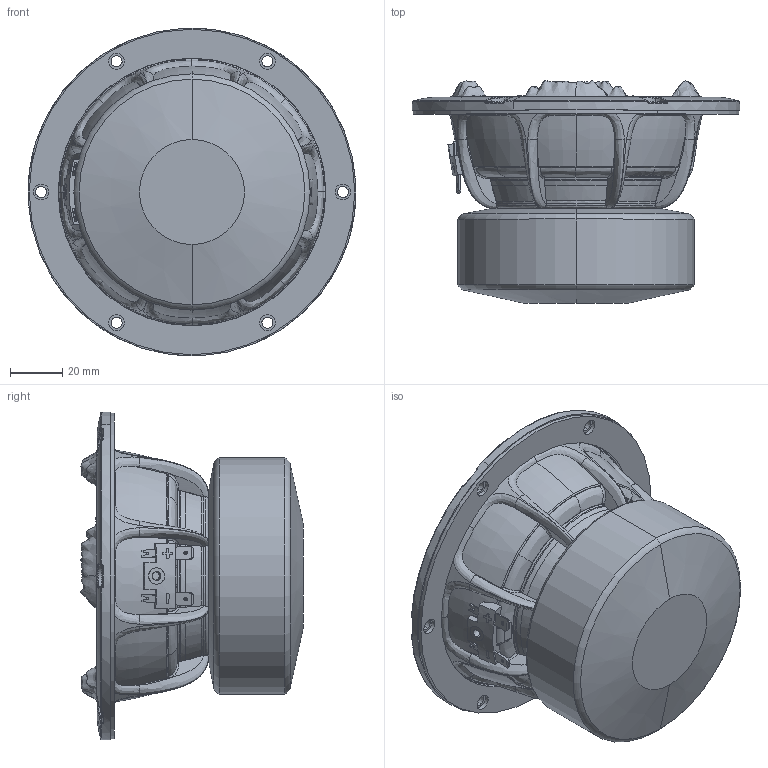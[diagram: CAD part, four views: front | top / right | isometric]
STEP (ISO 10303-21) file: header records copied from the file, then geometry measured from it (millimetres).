
FILE_DESCRIPTION (( 'STEP AP203' ), '1' );
FILE_NAME ('DU87-016-01 Active.STEP', '2023-08-31T08:36:29', ( '' ), ( '' ), 'SwSTEP 2.0', 'SolidWorks 2022', '' );
FILE_SCHEMA (( 'CONFIG_CONTROL_DESIGN' ));
Length unit declared in the file: millimetre
Products named in the file (1): DU87-016-01 Active
Bounding box: 124.88 x 84.68 x 124.88 mm (x, y, z)
Volume: 460249.8 mm3; surface area: 61903.7 mm2
Topology: 1 solids, 15 shells, 1294 faces, 3289 edges, 2039 vertices
Faces by surface type: bspline 630, plane 199, torus 152, cylinder 139, cone 100, sphere 74
Entity records: 279240 total; most frequent: CARTESIAN_POINT 253800, ORIENTED_EDGE 6496, DIRECTION 3604, EDGE_CURVE 3248, VERTEX_POINT 2025, B_SPLINE_CURVE_WITH_KNOTS 1736, AXIS2_PLACEMENT_3D 1582, EDGE_LOOP 1353
